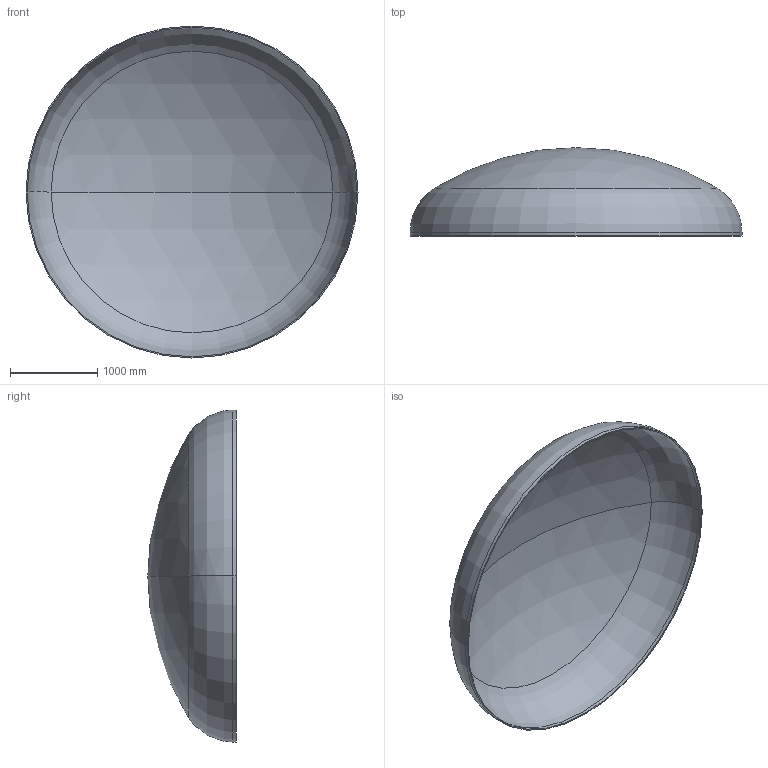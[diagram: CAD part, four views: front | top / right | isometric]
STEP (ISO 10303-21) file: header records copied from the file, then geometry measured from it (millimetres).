
FILE_DESCRIPTION (( 'STEP AP203' ), '1' );
FILE_NAME ('DIN 28013 Korbbogenform_-_Boden DIN 28013 - 3800 x 40 - I - s=13.step', '2016-07-01T21:03:38', ( '' ), ( '' ), 'SwSTEP 2.0', 'SolidWorks 2013', '' );
FILE_SCHEMA (( 'CONFIG_CONTROL_DESIGN' ));
Length unit declared in the file: millimetre
Products named in the file (1): DIN 28013 Korbbogenform_-_Boden DIN 28013 - 3800 x 40 - I - s=13
Bounding box: 3800 x 1011.7 x 3800 mm (x, y, z)
Volume: 209459439.8 mm3; surface area: 32379533.9 mm2
Topology: 1 solids, 1 shells, 13 faces, 24 edges, 14 vertices
Faces by surface type: torus 4, cylinder 4, sphere 4, plane 1
Entity records: 407 total; most frequent: DIRECTION 72, CARTESIAN_POINT 52, ORIENTED_EDGE 48, AXIS2_PLACEMENT_3D 34, EDGE_CURVE 24, CIRCLE 20, VERTEX_POINT 14, EDGE_LOOP 14
